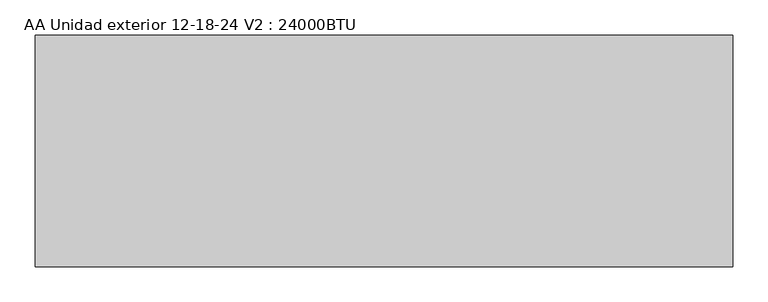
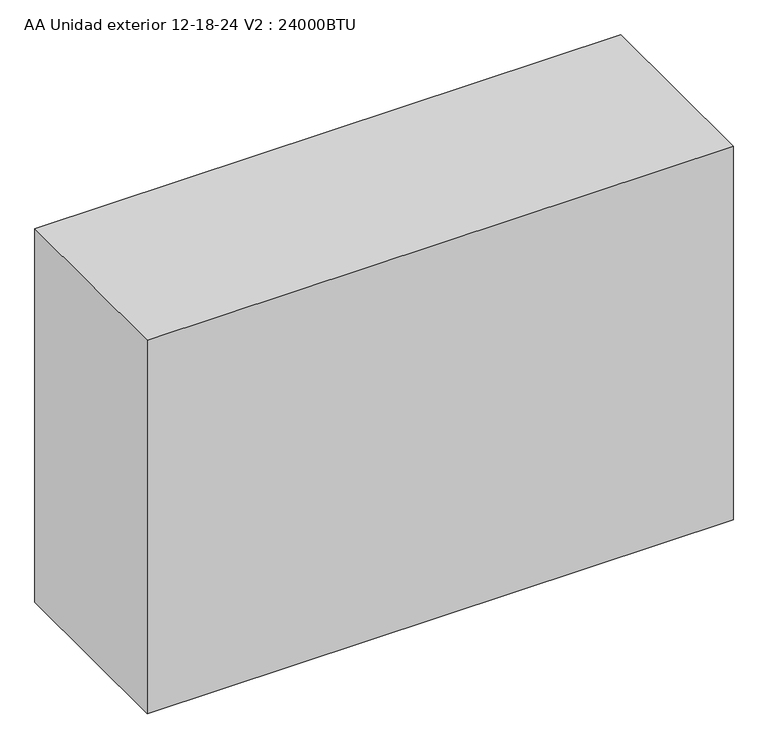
"""IFC4 building model written with IfcOpenShell, lengths in millimetres: proxy geometry, AA Unidad exterior 12-18-24 V2 : 24000BTU."""

import ifcopenshell
import ifcopenshell.guid

model = None  # the IFC model being written
_history = None  # IfcOwnerHistory: only IFC2X3 demands one
_inside = {}  # id of a spatial element -> (the spatial element, [elements in it])
_under = {}  # id of a project, library or spatial element -> (it, [spatial elements below it])
_declared = {}  # id of a project -> (the project, [libraries it declares])
_typed = {}  # id of a type object -> (the type object, [elements of that type])
_made_of = {}  # id of a material, layer set ... -> (it, [elements and type objects made of it])


def new_model(schema):
    """Start an empty IFC model of exactly this schema.

    Asked for "IFC4X3", IfcOpenShell would pick the latest addendum, in which some entities
    have other attributes; the version numbers below select the first issue.
    IFC2X3 requires an IfcOwnerHistory on every rooted entity: one is made here for all.
    """
    global model, _history
    if schema == "IFC4X3":
        model = ifcopenshell.file(schema_version=(4, 3, 0, 0))
    else:
        model = ifcopenshell.file(schema=schema)
    _inside.clear()
    _under.clear()
    _declared.clear()
    _typed.clear()
    _made_of.clear()
    _history = None
    if model.schema == "IFC2X3":
        org = make("IfcOrganization", Name="unknown")
        user = make(
            "IfcPersonAndOrganization",
            ThePerson=make("IfcPerson", FamilyName="unknown"),
            TheOrganization=org,
        )
        app = make(
            "IfcApplication",
            ApplicationDeveloper=org,
            Version="unknown",
            ApplicationFullName="unknown",
            ApplicationIdentifier="unknown",
        )
        _history = make(
            "IfcOwnerHistory",
            OwningUser=user,
            OwningApplication=app,
            ChangeAction="ADDED",
            CreationDate=0,
        )
    return model


def make(cls, **values):
    """One entity of the class cls with the attributes given. An attribute that is None is left unset."""
    return model.create_entity(
        cls, **{name: value for name, value in values.items() if value is not None}
    )


def rooted(cls, **values):
    """An entity with a GlobalId (a new one), such as an element, a storey or a relation."""
    return make(cls, GlobalId=ifcopenshell.guid.new(), OwnerHistory=_history, **values)


def si_unit(unit_type, name, prefix=None):
    """IfcSIUnit, for example si_unit("LENGTHUNIT", "METRE", prefix="MILLI")."""
    return make("IfcSIUnit", UnitType=unit_type, Prefix=prefix, Name=name)


def assignment(units):
    """IfcUnitAssignment: the units of a project."""
    return None if units is None else make("IfcUnitAssignment", Units=units)


def point(xyz):
    """IfcCartesianPoint."""
    return None if xyz is None else make("IfcCartesianPoint", Coordinates=xyz)


def direction(xyz):
    """IfcDirection."""
    return None if xyz is None else make("IfcDirection", DirectionRatios=xyz)


def frame(location, z_axis=None, x_axis=None):
    """IfcAxis2Placement3D, a coordinate frame: its origin and axes. An axis left out is left unset."""
    return make(
        "IfcAxis2Placement3D",
        Location=point(location),
        Axis=direction(z_axis),
        RefDirection=direction(x_axis),
    )


def origin():
    """The frame at (0, 0, 0) with its axes left unset."""
    return frame((0.0, 0.0, 0.0))


def origin_with_axes():
    """The frame at (0, 0, 0) with the z axis (0, 0, 1) and the x axis (1, 0, 0) written out."""
    return frame((0.0, 0.0, 0.0), z_axis=(0.0, 0.0, 1.0), x_axis=(1.0, 0.0, 0.0))


def place(relative_to, where):
    """IfcLocalPlacement: puts the frame where relative to a parent placement (None: the world)."""
    return make(
        "IfcLocalPlacement", PlacementRelTo=relative_to, RelativePlacement=where
    )


def context(
    kind, dimensions, precision=None, world=None, true_north=None, identifier=None
):
    """IfcGeometricRepresentationContext, for example the 3D "Model" context."""
    return make(
        "IfcGeometricRepresentationContext",
        ContextIdentifier=identifier,
        ContextType=kind,
        CoordinateSpaceDimension=dimensions,
        Precision=precision,
        WorldCoordinateSystem=world,
        TrueNorth=true_north,
    )


def project(units=None, contexts=None):
    """IfcProject with its units and contexts."""
    return rooted(
        "IfcProject",
        Name="project",
        RepresentationContexts=contexts,
        UnitsInContext=assignment(units),
    )


def spatial(cls, under=None, at=None, **own):
    """A site, building, storey or space (cls), placed at a placement, below another one or the project."""
    s = rooted(cls, ObjectPlacement=at, **own)
    if under is not None:
        _under.setdefault(under.id(), (under, []))[1].append(s)
    return s


def polyline(points):
    """IfcPolyline through the points."""
    return make("IfcPolyline", Points=[point(p) for p in points])


def outline(outer, holes=None, kind="AREA"):
    """IfcArbitraryClosedProfileDef: a profile drawn as a closed curve; with holes, ...WithVoids."""
    if holes is None:
        return make("IfcArbitraryClosedProfileDef", ProfileType=kind, OuterCurve=outer)
    return make(
        "IfcArbitraryProfileDefWithVoids",
        ProfileType=kind,
        OuterCurve=outer,
        InnerCurves=holes,
    )


def extrude(swept, where, along, depth):
    """IfcExtrudedAreaSolid: the profile swept, set in the frame where, extruded along a direction by depth."""
    return make(
        "IfcExtrudedAreaSolid",
        SweptArea=swept,
        Position=where,
        ExtrudedDirection=direction(along),
        Depth=depth,
    )


def shape(context_of_items, identifier, shape_type, items):
    """IfcShapeRepresentation: the items that make up one representation, for example the "Body"."""
    return make(
        "IfcShapeRepresentation",
        ContextOfItems=context_of_items,
        RepresentationIdentifier=identifier,
        RepresentationType=shape_type,
        Items=items,
    )


def source(mapping_origin, context_of_items, identifier, shape_type, items):
    """IfcRepresentationMap: a shape defined once, which mapped items show again and again."""
    return make(
        "IfcRepresentationMap",
        MappingOrigin=mapping_origin,
        MappedRepresentation=shape(context_of_items, identifier, shape_type, items),
    )


def transform(
    local_origin,
    x_axis=None,
    y_axis=None,
    z_axis=None,
    scale=None,
    scale2=None,
    scale3=None,
    uniform=True,
):
    """IfcCartesianTransformationOperator3D, or its non-uniform kind. x_axis, y_axis, z_axis: its Axis1, 2, 3."""
    if uniform:
        return make(
            "IfcCartesianTransformationOperator3D",
            Axis1=direction(x_axis),
            Axis2=direction(y_axis),
            LocalOrigin=point(local_origin),
            Scale=scale,
            Axis3=direction(z_axis),
        )
    return make(
        "IfcCartesianTransformationOperator3DnonUniform",
        Axis1=direction(x_axis),
        Axis2=direction(y_axis),
        LocalOrigin=point(local_origin),
        Scale=scale,
        Axis3=direction(z_axis),
        Scale2=scale2,
        Scale3=scale3,
    )


def mapped(mapping_source, mapping_target):
    """IfcMappedItem: shows the shape of a source again, moved by a transform."""
    return make(
        "IfcMappedItem", MappingSource=mapping_source, MappingTarget=mapping_target
    )


def made_of(thing, what):
    """Note that an element or type object is made of a material, layer set ...; save() writes the relation."""
    if what is not None:
        _made_of.setdefault(what.id(), (what, []))[1].append(thing)
    return thing


def element(
    cls,
    number,
    at=None,
    inside=None,
    cuts=None,
    type_object=None,
    material=None,
    context=None,
    identifier="Body",
    shape_type=None,
    held_by="IfcProductDefinitionShape",
    body=None,
    shapes=None,
    **own,
):
    """One element of the class cls, such as IfcWall. Its Tag is "e" and its number.

    at: its placement. inside: the storey or other place that contains it. cuts: it is an
    opening in that element (IfcRelVoidsElement). A single representation is given by context,
    identifier, shape_type and body (its items); several are given by shapes. held_by: the class
    of the entity that holds the representations. save() writes the other relations.
    """
    e = rooted(cls, Tag="e%d" % number, ObjectPlacement=at, **own)
    if body is not None:
        shapes = [shape(context, identifier, shape_type, body)]
    if shapes is not None:
        e.Representation = make(held_by, Representations=shapes)
    if inside is not None:
        _inside.setdefault(inside.id(), (inside, []))[1].append(e)
    if cuts is not None:
        rooted(
            "IfcRelVoidsElement", RelatingBuildingElement=cuts, RelatedOpeningElement=e
        )
    if type_object is not None:
        _typed.setdefault(type_object.id(), (type_object, []))[1].append(e)
    return made_of(e, material)


def aggregate(whole, parts):
    """IfcRelAggregates: a whole, such as a stair, and the parts it consists of."""
    return rooted("IfcRelAggregates", RelatingObject=whole, RelatedObjects=parts)


def save(model, path):
    """Write the relations noted so far, then the file.

    IfcRelAggregates (storeys below a building ...), IfcRelContainedInSpatialStructure (elements
    in a storey), IfcRelDefinesByType, IfcRelAssociatesMaterial and IfcRelDeclares: one each for
    every whole, place, type object, material and project.
    """
    for whole, parts in _under.values():
        aggregate(whole, parts)
    for where, things in _inside.values():
        rooted(
            "IfcRelContainedInSpatialStructure",
            RelatedElements=things,
            RelatingStructure=where,
        )
    for kind, things in _typed.values():
        rooted("IfcRelDefinesByType", RelatedObjects=things, RelatingType=kind)
    for what, things in _made_of.values():
        rooted("IfcRelAssociatesMaterial", RelatedObjects=things, RelatingMaterial=what)
    for by, libraries in _declared.values():
        rooted("IfcRelDeclares", RelatingContext=by, RelatedDefinitions=libraries)
    model.write(path)


def aa_unidad_exterior_12_18_24_v2_24000btu_2b071aac(model_context):
    return source(origin(), model_context, "Body", "SweptSolid", [
        extrude(outline(polyline([(497.5, 165.0), (497.5, -165.0), (-497.5, -165.0), (-497.5, 165.0), (497.5, 165.0)])), origin_with_axes(), (0.0, 0.0, 1.0), 670.0),
    ])


if __name__ == "__main__":
    model = new_model("IFC4")
    model_context = context("Model", 3, world=origin())
    ifc_project = project(units=[si_unit("LENGTHUNIT", "METRE", prefix="MILLI")], contexts=[model_context])
    site = spatial("IfcSite", under=ifc_project)
    building = spatial("IfcBuilding", under=site)
    placement = place(None, origin())
    aa_unidad_exterior_12_18_24_v2_24000btu_shape = aa_unidad_exterior_12_18_24_v2_24000btu_2b071aac(model_context)
    element("IfcBuildingElementProxy", 1, Name="AA Unidad exterior 12-18-24 V2 : 24000BTU", ObjectType="AA Unidad exterior 12-18-24 V2 : 24000BTU", at=placement, inside=building, context=model_context, shape_type="MappedRepresentation", body=[
        mapped(aa_unidad_exterior_12_18_24_v2_24000btu_shape, transform((0.0, 0.0, 0.0), x_axis=(1.0, 0.0, 0.0), y_axis=(0.0, 1.0, 0.0), z_axis=(0.0, 0.0, 1.0))),
    ])
    save(model, "model.ifc")
